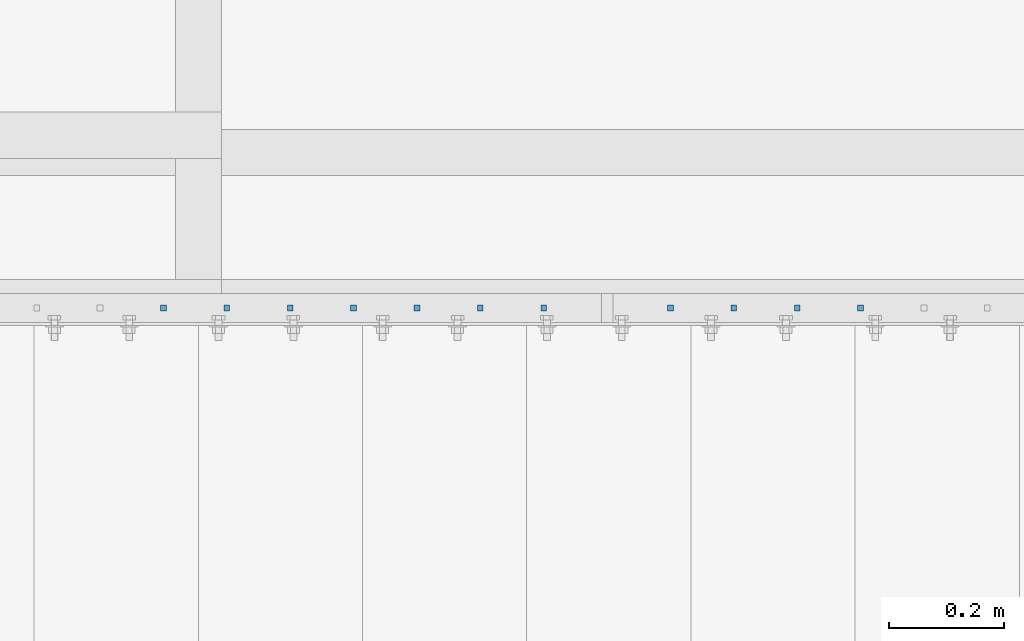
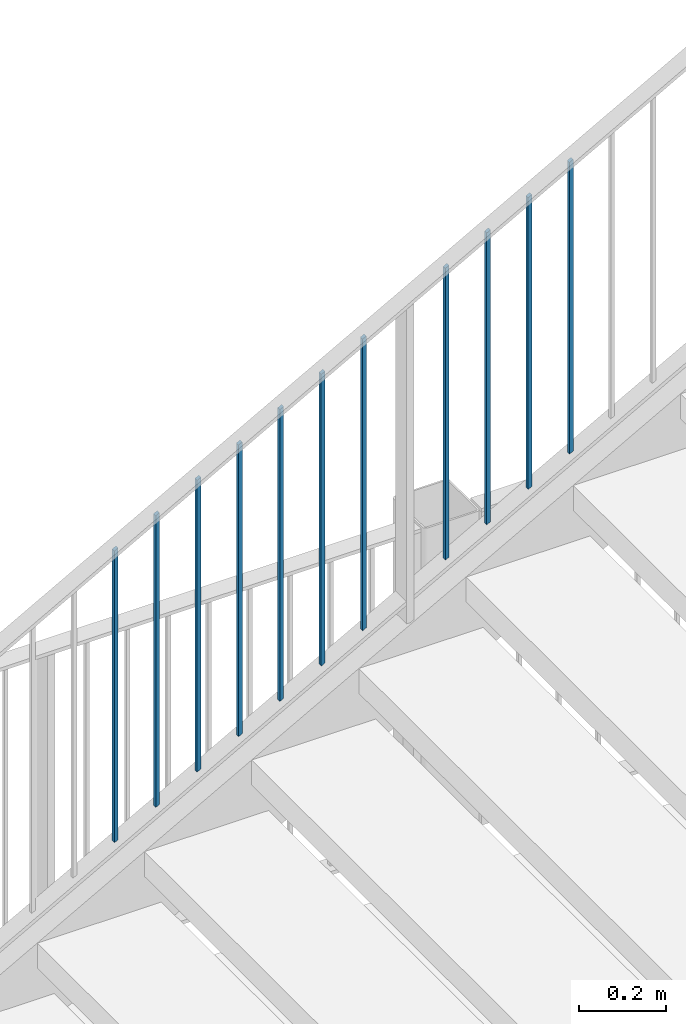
# One storey, part 51 of 78: 11 beams, 1 element without a shape of its own.
"""IFC2X3 building model written with IfcOpenShell, lengths in millimetres."""

import ifcopenshell
import ifcopenshell.guid

model = None  # the IFC model being written
_history = None  # IfcOwnerHistory: only IFC2X3 demands one
_inside = {}  # id of a spatial element -> (the spatial element, [elements in it])
_under = {}  # id of a project, library or spatial element -> (it, [spatial elements below it])
_declared = {}  # id of a project -> (the project, [libraries it declares])
_typed = {}  # id of a type object -> (the type object, [elements of that type])
_made_of = {}  # id of a material, layer set ... -> (it, [elements and type objects made of it])


def new_model(schema):
    """Start an empty IFC model of exactly this schema.

    Asked for "IFC4X3", IfcOpenShell would pick the latest addendum, in which some entities
    have other attributes; the version numbers below select the first issue.
    IFC2X3 requires an IfcOwnerHistory on every rooted entity: one is made here for all.
    """
    global model, _history
    if schema == "IFC4X3":
        model = ifcopenshell.file(schema_version=(4, 3, 0, 0))
    else:
        model = ifcopenshell.file(schema=schema)
    _inside.clear()
    _under.clear()
    _declared.clear()
    _typed.clear()
    _made_of.clear()
    _history = None
    if model.schema == "IFC2X3":
        org = make("IfcOrganization", Name="unknown")
        user = make(
            "IfcPersonAndOrganization",
            ThePerson=make("IfcPerson", FamilyName="unknown"),
            TheOrganization=org,
        )
        app = make(
            "IfcApplication",
            ApplicationDeveloper=org,
            Version="unknown",
            ApplicationFullName="unknown",
            ApplicationIdentifier="unknown",
        )
        _history = make(
            "IfcOwnerHistory",
            OwningUser=user,
            OwningApplication=app,
            ChangeAction="ADDED",
            CreationDate=0,
        )
    return model


def make(cls, **values):
    """One entity of the class cls with the attributes given. An attribute that is None is left unset."""
    return model.create_entity(
        cls, **{name: value for name, value in values.items() if value is not None}
    )


def rooted(cls, **values):
    """An entity with a GlobalId (a new one), such as an element, a storey or a relation."""
    return make(cls, GlobalId=ifcopenshell.guid.new(), OwnerHistory=_history, **values)


def si_unit(unit_type, name, prefix=None):
    """IfcSIUnit, for example si_unit("LENGTHUNIT", "METRE", prefix="MILLI")."""
    return make("IfcSIUnit", UnitType=unit_type, Prefix=prefix, Name=name)


def assignment(units):
    """IfcUnitAssignment: the units of a project."""
    return None if units is None else make("IfcUnitAssignment", Units=units)


def point(xyz):
    """IfcCartesianPoint."""
    return None if xyz is None else make("IfcCartesianPoint", Coordinates=xyz)


def direction(xyz):
    """IfcDirection."""
    return None if xyz is None else make("IfcDirection", DirectionRatios=xyz)


def frame(location, z_axis=None, x_axis=None):
    """IfcAxis2Placement3D, a coordinate frame: its origin and axes. An axis left out is left unset."""
    return make(
        "IfcAxis2Placement3D",
        Location=point(location),
        Axis=direction(z_axis),
        RefDirection=direction(x_axis),
    )


def frame_2d(location, x_axis=None):
    """IfcAxis2Placement2D, a coordinate frame in the plane: its origin and x axis."""
    return make(
        "IfcAxis2Placement2D", Location=point(location), RefDirection=direction(x_axis)
    )


def origin_with_axes():
    """The frame at (0, 0, 0) with the z axis (0, 0, 1) and the x axis (1, 0, 0) written out."""
    return frame((0.0, 0.0, 0.0), z_axis=(0.0, 0.0, 1.0), x_axis=(1.0, 0.0, 0.0))


def origin_2d_with_axis():
    """The frame at (0, 0) in the plane with the x axis (1, 0) written out."""
    return frame_2d((0.0, 0.0), x_axis=(1.0, 0.0))


def place(relative_to, where):
    """IfcLocalPlacement: puts the frame where relative to a parent placement (None: the world)."""
    return make(
        "IfcLocalPlacement", PlacementRelTo=relative_to, RelativePlacement=where
    )


def context(
    kind, dimensions, precision=None, world=None, true_north=None, identifier=None
):
    """IfcGeometricRepresentationContext, for example the 3D "Model" context."""
    return make(
        "IfcGeometricRepresentationContext",
        ContextIdentifier=identifier,
        ContextType=kind,
        CoordinateSpaceDimension=dimensions,
        Precision=precision,
        WorldCoordinateSystem=world,
        TrueNorth=true_north,
    )


def subcontext(parent, identifier, kind, view, scale=None):
    """IfcGeometricRepresentationSubContext, for example "Body" below "Model"."""
    return make(
        "IfcGeometricRepresentationSubContext",
        ContextIdentifier=identifier,
        ContextType=kind,
        ParentContext=parent,
        TargetScale=scale,
        TargetView=view,
    )


def project(units=None, contexts=None):
    """IfcProject with its units and contexts."""
    return rooted(
        "IfcProject",
        Name="project",
        RepresentationContexts=contexts,
        UnitsInContext=assignment(units),
    )


def spatial(cls, under=None, at=None, **own):
    """A site, building, storey or space (cls), placed at a placement, below another one or the project."""
    s = rooted(cls, ObjectPlacement=at, **own)
    if under is not None:
        _under.setdefault(under.id(), (under, []))[1].append(s)
    return s


def profile(cls, at=None, kind="AREA", **sizes):
    """A parametric profile (cls). Its sizes go by their IFC names, for example OverallWidth=200.0."""
    return make(cls, ProfileType=kind, Position=at, **sizes)


def rectangle(**sizes):
    """IfcRectangleProfileDef."""
    return profile("IfcRectangleProfileDef", **sizes)


def extrude(swept, where, along, depth):
    """IfcExtrudedAreaSolid: the profile swept, set in the frame where, extruded along a direction by depth."""
    return make(
        "IfcExtrudedAreaSolid",
        SweptArea=swept,
        Position=where,
        ExtrudedDirection=direction(along),
        Depth=depth,
    )


def clip(a, b, op="DIFFERENCE"):
    """IfcBooleanClippingResult: the solid a cut by the half space b."""
    return make(
        "IfcBooleanClippingResult", Operator=op, FirstOperand=a, SecondOperand=b
    )


def halfspace(plane, agree):
    """IfcHalfSpaceSolid: all space on one side of the plane z = 0 of the frame plane."""
    return make(
        "IfcHalfSpaceSolid",
        BaseSurface=make("IfcPlane", Position=plane),
        AgreementFlag=agree,
    )


def shape(context_of_items, identifier, shape_type, items):
    """IfcShapeRepresentation: the items that make up one representation, for example the "Body"."""
    return make(
        "IfcShapeRepresentation",
        ContextOfItems=context_of_items,
        RepresentationIdentifier=identifier,
        RepresentationType=shape_type,
        Items=items,
    )


def material(Name=None, Category=None):
    """IfcMaterial."""
    return make("IfcMaterial", Name=Name, Category=Category)


def made_of(thing, what):
    """Note that an element or type object is made of a material, layer set ...; save() writes the relation."""
    if what is not None:
        _made_of.setdefault(what.id(), (what, []))[1].append(thing)
    return thing


def type_object(cls, material=None, **own):
    """A type object (cls), such as IfcWallType, which elements share."""
    return made_of(rooted(cls, **own), material)


def element(
    cls,
    number,
    at=None,
    inside=None,
    cuts=None,
    type_object=None,
    material=None,
    context=None,
    identifier="Body",
    shape_type=None,
    held_by="IfcProductDefinitionShape",
    body=None,
    shapes=None,
    **own,
):
    """One element of the class cls, such as IfcWall. Its Tag is "e" and its number.

    at: its placement. inside: the storey or other place that contains it. cuts: it is an
    opening in that element (IfcRelVoidsElement). A single representation is given by context,
    identifier, shape_type and body (its items); several are given by shapes. held_by: the class
    of the entity that holds the representations. save() writes the other relations.
    """
    e = rooted(cls, Tag="e%d" % number, ObjectPlacement=at, **own)
    if body is not None:
        shapes = [shape(context, identifier, shape_type, body)]
    if shapes is not None:
        e.Representation = make(held_by, Representations=shapes)
    if inside is not None:
        _inside.setdefault(inside.id(), (inside, []))[1].append(e)
    if cuts is not None:
        rooted(
            "IfcRelVoidsElement", RelatingBuildingElement=cuts, RelatedOpeningElement=e
        )
    if type_object is not None:
        _typed.setdefault(type_object.id(), (type_object, []))[1].append(e)
    return made_of(e, material)


def aggregate(whole, parts):
    """IfcRelAggregates: a whole, such as a stair, and the parts it consists of."""
    return rooted("IfcRelAggregates", RelatingObject=whole, RelatedObjects=parts)


def save(model, path):
    """Write the relations noted so far, then the file.

    IfcRelAggregates (storeys below a building ...), IfcRelContainedInSpatialStructure (elements
    in a storey), IfcRelDefinesByType, IfcRelAssociatesMaterial and IfcRelDeclares: one each for
    every whole, place, type object, material and project.
    """
    for whole, parts in _under.values():
        aggregate(whole, parts)
    for where, things in _inside.values():
        rooted(
            "IfcRelContainedInSpatialStructure",
            RelatedElements=things,
            RelatingStructure=where,
        )
    for kind, things in _typed.values():
        rooted("IfcRelDefinesByType", RelatedObjects=things, RelatingType=kind)
    for what, things in _made_of.values():
        rooted("IfcRelAssociatesMaterial", RelatedObjects=things, RelatingMaterial=what)
    for by, libraries in _declared.values():
        rooted("IfcRelDeclares", RelatingContext=by, RelatedDefinitions=libraries)
    model.write(path)


model = new_model("IFC2X3")

# Units and contexts
model_context = context("Model", 3, precision=1e-05, world=origin_with_axes())
body_context = subcontext(model_context, "Body", "Model", "MODEL_VIEW")
ifc_project = project(units=[si_unit("LENGTHUNIT", "METRE", prefix="MILLI"), si_unit("AREAUNIT", "SQUARE_METRE"), si_unit("VOLUMEUNIT", "CUBIC_METRE"), si_unit("MASSUNIT", "GRAM", prefix="KILO"), si_unit("TIMEUNIT", "SECOND"), si_unit("PLANEANGLEUNIT", "RADIAN"), si_unit("SOLIDANGLEUNIT", "STERADIAN"), si_unit("THERMODYNAMICTEMPERATUREUNIT", "DEGREE_CELSIUS"), si_unit("LUMINOUSINTENSITYUNIT", "LUMEN")], contexts=[model_context])

# Site, building, storey
site_placement = place(None, origin_with_axes())
site = spatial("IfcSite", under=ifc_project, at=site_placement, Name="Site", CompositionType="ELEMENT")
building_placement = place(site_placement, origin_with_axes())
building = spatial("IfcBuilding", under=site, at=building_placement, Name="Undefined", CompositionType="ELEMENT")
storey_placement = place(building_placement, origin_with_axes())
storey = spatial("IfcBuildingStorey", under=building, at=storey_placement, Name="Undefined", CompositionType="ELEMENT", Elevation=0.0)

# Assembly, beams
assembly_placement = place(storey_placement, origin_with_axes())
assembly = element("IfcElementAssembly", 1, at=assembly_placement, inside=storey, Name="MAIN_COURANTE", AssemblyPlace="NOTDEFINED", PredefinedType="RIGID_FRAME")
ifc_material = material(Name="STEEL/S235JR")
beam_type = type_object("IfcBeamType", Name="PL10*10", PredefinedType="NOTDEFINED")
beam_1_placement = place(assembly_placement, frame((-697.005715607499, 30592.9999997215, 159758.351236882), z_axis=(0.0, -1.0, 0.0), x_axis=(0.0, 0.0, -1.0)))
beam_1 = element("IfcBeam", 2, at=beam_1_placement, type_object=beam_type, material=ifc_material, Name="LISSE", ObjectType="PL10*10", context=body_context, shape_type="Clipping", body=[
    clip(clip(extrude(rectangle(XDim=10.0, YDim=10.0, at=origin_2d_with_axis()), frame((831.449999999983, 0.0, 0.0), z_axis=(-1.0, 0.0, 0.0), x_axis=(0.0, -1.0, 0.0)), (0.0, 0.0, 1.0), 831.45), halfspace(frame((825.737291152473, 9.09494701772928e-13, 1005.0), z_axis=(0.87524153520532, 0.48368611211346, 0.0), x_axis=(-0.483686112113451, 0.875241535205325, 0.0)), False)), halfspace(frame((5.71270869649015, 9.09494701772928e-13, 1005.0), z_axis=(-0.875241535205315, -0.483686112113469, 0.0), x_axis=(0.48368611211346, -0.87524153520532, 0.0)), False)),
])
beam_2_placement = place(assembly_placement, frame((-587.005715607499, 30592.9999997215, 159819.140710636), z_axis=(0.0, -1.0, 0.0), x_axis=(0.0, 0.0, -1.0)))
beam_2 = element("IfcBeam", 3, at=beam_2_placement, type_object=beam_type, material=ifc_material, Name="LISSE", ObjectType="PL10*10", context=body_context, shape_type="Clipping", body=[
    clip(clip(extrude(rectangle(XDim=10.0, YDim=10.0, at=origin_2d_with_axis()), frame((831.449999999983, 0.0, 0.0), z_axis=(-1.0, 0.0, 0.0), x_axis=(0.0, -1.0, 0.0)), (0.0, 0.0, 1.0), 831.45), halfspace(frame((825.737291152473, 9.09494701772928e-13, 1005.0), z_axis=(0.87524153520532, 0.48368611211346, 0.0), x_axis=(-0.483686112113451, 0.875241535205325, 0.0)), False)), halfspace(frame((5.71270869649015, 9.09494701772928e-13, 1005.0), z_axis=(-0.875241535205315, -0.483686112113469, 0.0), x_axis=(0.48368611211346, -0.87524153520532, 0.0)), False)),
])
beam_3_placement = place(assembly_placement, frame((-477.005715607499, 30592.9999997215, 159879.930184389), z_axis=(0.0, -1.0, 0.0), x_axis=(0.0, 0.0, -1.0)))
beam_3 = element("IfcBeam", 4, at=beam_3_placement, type_object=beam_type, material=ifc_material, Name="LISSE", ObjectType="PL10*10", context=body_context, shape_type="Clipping", body=[
    clip(clip(extrude(rectangle(XDim=10.0, YDim=10.0, at=origin_2d_with_axis()), frame((831.449999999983, 0.0, 0.0), z_axis=(-1.0, 0.0, 0.0), x_axis=(0.0, -1.0, 0.0)), (0.0, 0.0, 1.0), 831.45), halfspace(frame((825.737291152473, 9.09494701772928e-13, 1005.0), z_axis=(0.87524153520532, 0.48368611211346, 0.0), x_axis=(-0.483686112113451, 0.875241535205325, 0.0)), False)), halfspace(frame((5.71270869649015, 9.09494701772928e-13, 1005.0), z_axis=(-0.875241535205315, -0.483686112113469, 0.0), x_axis=(0.48368611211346, -0.87524153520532, 0.0)), False)),
])
beam_4_placement = place(assembly_placement, frame((-367.005715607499, 30592.9999997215, 159940.719658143), z_axis=(0.0, -1.0, 0.0), x_axis=(0.0, 0.0, -1.0)))
beam_4 = element("IfcBeam", 5, at=beam_4_placement, type_object=beam_type, material=ifc_material, Name="LISSE", ObjectType="PL10*10", context=body_context, shape_type="Clipping", body=[
    clip(clip(extrude(rectangle(XDim=10.0, YDim=10.0, at=origin_2d_with_axis()), frame((831.449999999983, 0.0, 0.0), z_axis=(-1.0, 0.0, 0.0), x_axis=(0.0, -1.0, 0.0)), (0.0, 0.0, 1.0), 831.45), halfspace(frame((825.737291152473, 9.09494701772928e-13, 1005.0), z_axis=(0.87524153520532, 0.48368611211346, 0.0), x_axis=(-0.483686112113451, 0.875241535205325, 0.0)), False)), halfspace(frame((5.71270869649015, 9.09494701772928e-13, 1005.0), z_axis=(-0.875241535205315, -0.483686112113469, 0.0), x_axis=(0.48368611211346, -0.87524153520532, 0.0)), False)),
])
beam_5_placement = place(assembly_placement, frame((-257.005715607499, 30592.9999997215, 160001.509131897), z_axis=(0.0, -1.0, 0.0), x_axis=(0.0, 0.0, -1.0)))
beam_5 = element("IfcBeam", 6, at=beam_5_placement, type_object=beam_type, material=ifc_material, Name="LISSE", ObjectType="PL10*10", context=body_context, shape_type="Clipping", body=[
    clip(clip(extrude(rectangle(XDim=10.0, YDim=10.0, at=origin_2d_with_axis()), frame((831.449999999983, 0.0, 0.0), z_axis=(-1.0, 0.0, 0.0), x_axis=(0.0, -1.0, 0.0)), (0.0, 0.0, 1.0), 831.45), halfspace(frame((825.737291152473, 9.09494701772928e-13, 1005.0), z_axis=(0.87524153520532, 0.48368611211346, 0.0), x_axis=(-0.483686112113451, 0.875241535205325, 0.0)), False)), halfspace(frame((5.71270869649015, 9.09494701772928e-13, 1005.0), z_axis=(-0.875241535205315, -0.483686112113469, 0.0), x_axis=(0.48368611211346, -0.87524153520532, 0.0)), False)),
])
beam_6_placement = place(assembly_placement, frame((-147.005715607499, 30592.9999997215, 160062.29860565), z_axis=(0.0, -1.0, 0.0), x_axis=(0.0, 0.0, -1.0)))
beam_6 = element("IfcBeam", 7, at=beam_6_placement, type_object=beam_type, material=ifc_material, Name="LISSE", ObjectType="PL10*10", context=body_context, shape_type="Clipping", body=[
    clip(clip(extrude(rectangle(XDim=10.0, YDim=10.0, at=origin_2d_with_axis()), frame((831.449999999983, 0.0, 0.0), z_axis=(-1.0, 0.0, 0.0), x_axis=(0.0, -1.0, 0.0)), (0.0, 0.0, 1.0), 831.45), halfspace(frame((825.737291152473, 9.09494701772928e-13, 1005.0), z_axis=(0.87524153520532, 0.48368611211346, 0.0), x_axis=(-0.483686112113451, 0.875241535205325, 0.0)), False)), halfspace(frame((5.71270869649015, 9.09494701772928e-13, 1005.0), z_axis=(-0.875241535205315, -0.483686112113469, 0.0), x_axis=(0.48368611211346, -0.87524153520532, 0.0)), False)),
])
beam_7_placement = place(assembly_placement, frame((-37.0057156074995, 30592.9999997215, 160123.088079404), z_axis=(0.0, -1.0, 0.0), x_axis=(0.0, 0.0, -1.0)))
beam_7 = element("IfcBeam", 8, at=beam_7_placement, type_object=beam_type, material=ifc_material, Name="LISSE", ObjectType="PL10*10", context=body_context, shape_type="Clipping", body=[
    clip(clip(extrude(rectangle(XDim=10.0, YDim=10.0, at=origin_2d_with_axis()), frame((831.449999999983, 0.0, 0.0), z_axis=(-1.0, 0.0, 0.0), x_axis=(0.0, -1.0, 0.0)), (0.0, 0.0, 1.0), 831.45), halfspace(frame((825.737291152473, 9.09494701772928e-13, 1005.0), z_axis=(0.87524153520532, 0.48368611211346, 0.0), x_axis=(-0.483686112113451, 0.875241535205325, 0.0)), False)), halfspace(frame((5.71270869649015, 9.09494701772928e-13, 1005.0), z_axis=(-0.875241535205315, -0.483686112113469, 0.0), x_axis=(0.48368611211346, -0.87524153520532, 0.0)), False)),
])
beam_8_placement = place(assembly_placement, frame((182.994284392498, 30592.9999997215, 160244.667026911), z_axis=(0.0, -1.0, 0.0), x_axis=(0.0, 0.0, -1.0)))
beam_8 = element("IfcBeam", 9, at=beam_8_placement, type_object=beam_type, material=ifc_material, Name="LISSE", ObjectType="PL10*10", context=body_context, shape_type="Clipping", body=[
    clip(clip(extrude(rectangle(XDim=10.0, YDim=10.0, at=origin_2d_with_axis()), frame((831.449999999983, 0.0, 0.0), z_axis=(-1.0, 0.0, 0.0), x_axis=(0.0, -1.0, 0.0)), (0.0, 0.0, 1.0), 831.45), halfspace(frame((825.737291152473, 9.09494701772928e-13, 1005.0), z_axis=(0.87524153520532, 0.48368611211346, 0.0), x_axis=(-0.483686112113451, 0.875241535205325, 0.0)), False)), halfspace(frame((5.71270869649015, 9.09494701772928e-13, 1005.0), z_axis=(-0.875241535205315, -0.483686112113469, 0.0), x_axis=(0.48368611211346, -0.87524153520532, 0.0)), False)),
])
beam_9_placement = place(assembly_placement, frame((292.994284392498, 30592.9999997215, 160305.456500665), z_axis=(0.0, -1.0, 0.0), x_axis=(0.0, 0.0, -1.0)))
beam_9 = element("IfcBeam", 10, at=beam_9_placement, type_object=beam_type, material=ifc_material, Name="LISSE", ObjectType="PL10*10", context=body_context, shape_type="Clipping", body=[
    clip(clip(extrude(rectangle(XDim=10.0, YDim=10.0, at=origin_2d_with_axis()), frame((831.449999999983, 0.0, 0.0), z_axis=(-1.0, 0.0, 0.0), x_axis=(0.0, -1.0, 0.0)), (0.0, 0.0, 1.0), 831.45), halfspace(frame((825.737291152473, 9.09494701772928e-13, 1005.0), z_axis=(0.87524153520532, 0.48368611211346, 0.0), x_axis=(-0.483686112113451, 0.875241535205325, 0.0)), False)), halfspace(frame((5.71270869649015, 9.09494701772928e-13, 1005.0), z_axis=(-0.875241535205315, -0.483686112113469, 0.0), x_axis=(0.48368611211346, -0.87524153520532, 0.0)), False)),
])
beam_10_placement = place(assembly_placement, frame((402.994284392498, 30592.9999997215, 160366.245974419), z_axis=(0.0, -1.0, 0.0), x_axis=(0.0, 0.0, -1.0)))
beam_10 = element("IfcBeam", 11, at=beam_10_placement, type_object=beam_type, material=ifc_material, Name="LISSE", ObjectType="PL10*10", context=body_context, shape_type="Clipping", body=[
    clip(clip(extrude(rectangle(XDim=10.0, YDim=10.0, at=origin_2d_with_axis()), frame((831.449999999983, 0.0, 0.0), z_axis=(-1.0, 0.0, 0.0), x_axis=(0.0, -1.0, 0.0)), (0.0, 0.0, 1.0), 831.45), halfspace(frame((825.737291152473, 9.09494701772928e-13, 1005.0), z_axis=(0.87524153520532, 0.48368611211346, 0.0), x_axis=(-0.483686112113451, 0.875241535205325, 0.0)), False)), halfspace(frame((5.71270869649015, 9.09494701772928e-13, 1005.0), z_axis=(-0.875241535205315, -0.483686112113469, 0.0), x_axis=(0.48368611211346, -0.87524153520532, 0.0)), False)),
])
beam_11_placement = place(assembly_placement, frame((512.994284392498, 30592.9999997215, 160427.035448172), z_axis=(0.0, -1.0, 0.0), x_axis=(0.0, 0.0, -1.0)))
beam_11 = element("IfcBeam", 12, at=beam_11_placement, type_object=beam_type, material=ifc_material, Name="LISSE", ObjectType="PL10*10", context=body_context, shape_type="Clipping", body=[
    clip(clip(extrude(rectangle(XDim=10.0, YDim=10.0, at=origin_2d_with_axis()), frame((831.449999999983, 0.0, 0.0), z_axis=(-1.0, 0.0, 0.0), x_axis=(0.0, -1.0, 0.0)), (0.0, 0.0, 1.0), 831.45), halfspace(frame((825.737291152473, 9.09494701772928e-13, 1005.0), z_axis=(0.87524153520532, 0.48368611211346, 0.0), x_axis=(-0.483686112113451, 0.875241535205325, 0.0)), False)), halfspace(frame((5.71270869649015, 9.09494701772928e-13, 1005.0), z_axis=(-0.875241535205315, -0.483686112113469, 0.0), x_axis=(0.48368611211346, -0.87524153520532, 0.0)), False)),
])
aggregate(assembly, [beam_1, beam_2, beam_3, beam_4, beam_5, beam_6, beam_7, beam_8, beam_9, beam_10, beam_11])

save(model, "model.ifc")
